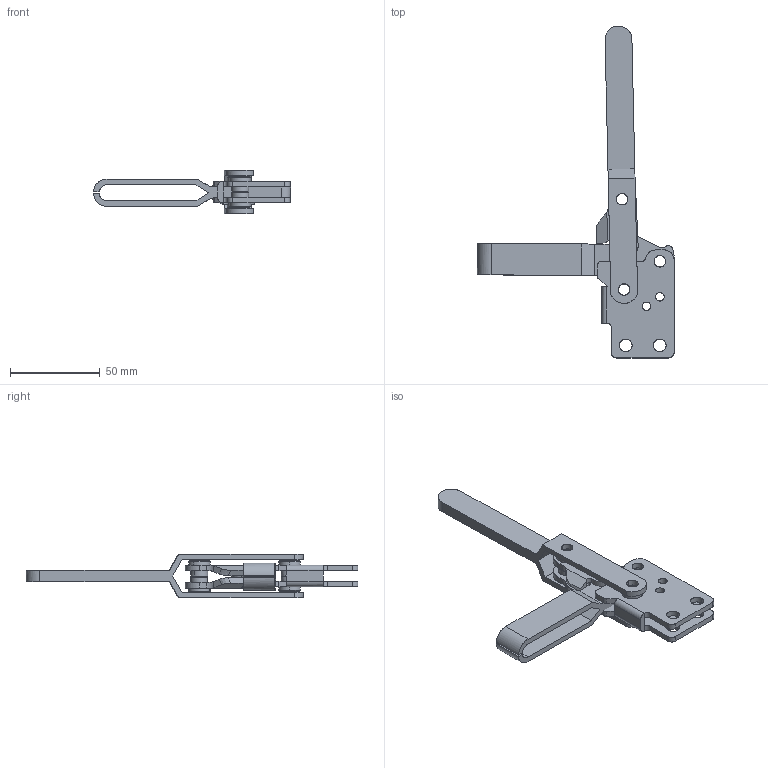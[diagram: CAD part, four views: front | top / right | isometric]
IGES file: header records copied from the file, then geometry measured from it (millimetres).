
Start section: Comment
Global section: file name: 12501b.igs; native system:  By Spatial Corp.; preprocessor: XPlus PS/IGES 3.0; author: Author; organization: Title; date: 20050216.172044; units: inch
Bounding box: 110.12 x 185.46 x 24.4 mm (x, y, z)
Surface area: 33262.4 mm2 (no closed solid volume)
Topology: 0 solids, 0 shells, 235 faces, 1214 edges, 1214 vertices
Faces by surface type: revolution 152, extrusion 83
